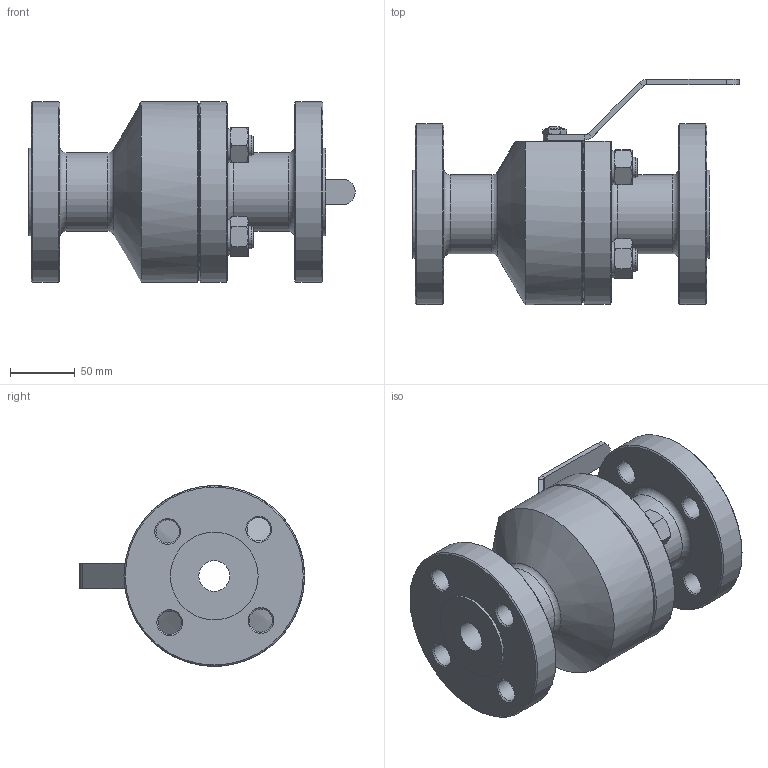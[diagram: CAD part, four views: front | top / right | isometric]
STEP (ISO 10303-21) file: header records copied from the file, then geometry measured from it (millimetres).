
FILE_DESCRIPTION((''),'2;1');
FILE_NAME('C:\Users\Bartek\Desktop\Nowy folder (2)\Nowy folder (22)\WK5b\WK5b DN25 PN100_Substitute_1.stp','2024-09-16T14:44:38',('Bartek'),(''),'Autodesk Inventor 2012','Autodesk Inventor 2012','');
FILE_SCHEMA(('AUTOMOTIVE_DESIGN { 1 0 10303 214 1 1 1 1 }'));
Length unit declared in the file: millimetre
Products named in the file (1): WK5b DN25 PN100_Substitute_1
Bounding box: 253 x 174.5 x 140 mm (x, y, z)
Volume: 2033325.6 mm3; surface area: 204844.2 mm2
Topology: 1 solids, 1 shells, 216 faces, 487 edges, 295 vertices
Faces by surface type: plane 86, cone 84, cylinder 42, torus 4
Full cylindrical faces by diameter (mm): 16 x4, 18 x8, 24 x1, 26 x4, 61 x2, 68 x3, 140 x2
Entity records: 5687 total; most frequent: CARTESIAN_POINT 1172, DIRECTION 900, ORIENTED_EDGE 838, EDGE_CURVE 419, AXIS2_PLACEMENT_3D 391, EDGE_LOOP 311, VERTEX_POINT 282, FACE_OUTER_BOUND 216
